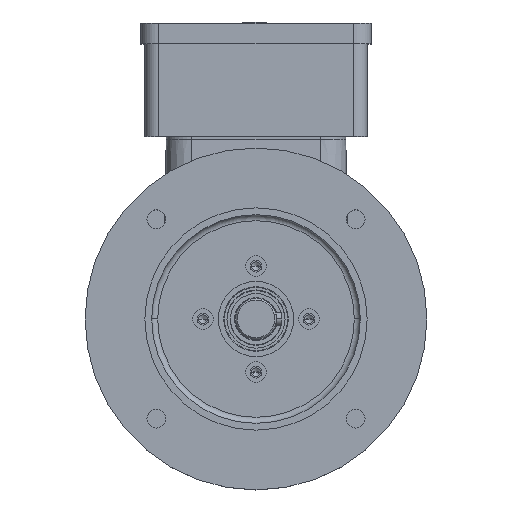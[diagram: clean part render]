
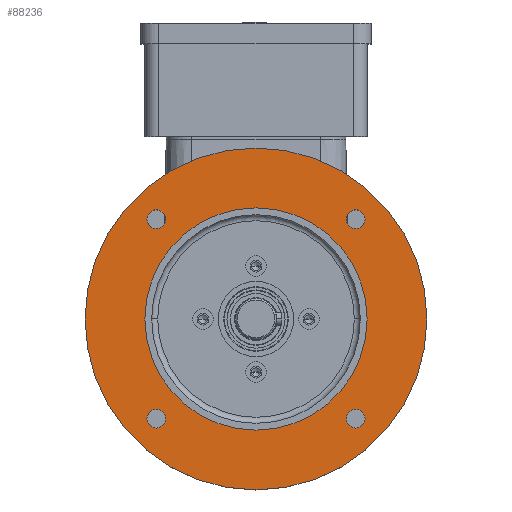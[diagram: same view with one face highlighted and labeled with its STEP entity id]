
A CAD part, top view. The second image highlights one B-rep face of the part: STEP entity #88236.
In plain terms, the highlighted planar face has unit normal (0, 0, 1).
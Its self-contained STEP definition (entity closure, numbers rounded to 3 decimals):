
#734 = CARTESIAN_POINT ( 'NONE',  ( -52.836, 58.336, 136.5 ) ) ;
#3097 = EDGE_LOOP ( 'NONE', ( #20086, #78267 ) ) ;
#3687 = ORIENTED_EDGE ( 'NONE', *, *, #75343, .F. ) ;
#7861 = CIRCLE ( 'NONE', #97593, 5.5 ) ;
#8470 = CIRCLE ( 'NONE', #15726, 65. ) ;
#11179 = VERTEX_POINT ( 'NONE', #71261 ) ;
#11537 = AXIS2_PLACEMENT_3D ( 'NONE', #52733, #61545, #22193 ) ;
#12981 = DIRECTION ( 'NONE',  ( 1., 0., 0. ) ) ;
#13802 = DIRECTION ( 'NONE',  ( 0., 0., 1. ) ) ;
#14098 = DIRECTION ( 'NONE',  ( 1., 0., 0. ) ) ;
#15726 = AXIS2_PLACEMENT_3D ( 'NONE', #37594, #129290, #48216 ) ;
#18408 = CARTESIAN_POINT ( 'NONE',  ( -100., 0., 136.5 ) ) ;
#19991 = CIRCLE ( 'NONE', #100481, 5.5 ) ;
#20086 = ORIENTED_EDGE ( 'NONE', *, *, #30128, .F. ) ;
#21428 = CARTESIAN_POINT ( 'NONE',  ( 63.836, 58.336, 136.5 ) ) ;
#21999 = FACE_BOUND ( 'NONE', #125487, .T. ) ;
#22193 = DIRECTION ( 'NONE',  ( 1., 0., 0. ) ) ;
#22886 = DIRECTION ( 'NONE',  ( 1., 0., 0. ) ) ;
#24916 = ORIENTED_EDGE ( 'NONE', *, *, #63097, .F. ) ;
#24945 = ORIENTED_EDGE ( 'NONE', *, *, #33478, .F. ) ;
#25346 = EDGE_CURVE ( 'NONE', #106635, #31333, #84701, .T. ) ;
#30128 = EDGE_CURVE ( 'NONE', #63196, #40210, #89136, .T. ) ;
#31333 = VERTEX_POINT ( 'NONE', #34458 ) ;
#33235 = DIRECTION ( 'NONE',  ( 0., 0., 1. ) ) ;
#33478 = EDGE_CURVE ( 'NONE', #11179, #40755, #38510, .T. ) ;
#34458 = CARTESIAN_POINT ( 'NONE',  ( -52.836, -58.336, 136.5 ) ) ;
#35909 = CIRCLE ( 'NONE', #52246, 5.5 ) ;
#37359 = CARTESIAN_POINT ( 'NONE',  ( 0., 100., 136.5 ) ) ;
#37594 = CARTESIAN_POINT ( 'NONE',  ( 0., 0., 136.5 ) ) ;
#38357 = DIRECTION ( 'NONE',  ( 0., 0., 1. ) ) ;
#38510 = CIRCLE ( 'NONE', #50995, 65. ) ;
#39410 = FACE_BOUND ( 'NONE', #85826, .T. ) ;
#39505 = ORIENTED_EDGE ( 'NONE', *, *, #75650, .F. ) ;
#39705 = CIRCLE ( 'NONE', #131145, 100. ) ;
#40210 = VERTEX_POINT ( 'NONE', #115125 ) ;
#40755 = VERTEX_POINT ( 'NONE', #87657 ) ;
#42052 = VERTEX_POINT ( 'NONE', #76760 ) ;
#44051 = DIRECTION ( 'NONE',  ( 1., 0., 0. ) ) ;
#44884 = CARTESIAN_POINT ( 'NONE',  ( -58.336, -58.336, 136.5 ) ) ;
#46720 = EDGE_CURVE ( 'NONE', #40210, #63196, #7861, .T. ) ;
#48216 = DIRECTION ( 'NONE',  ( 1., 0., 0. ) ) ;
#50995 = AXIS2_PLACEMENT_3D ( 'NONE', #54614, #74075, #44051 ) ;
#51088 = VERTEX_POINT ( 'NONE', #18408 ) ;
#51460 = VERTEX_POINT ( 'NONE', #734 ) ;
#52246 = AXIS2_PLACEMENT_3D ( 'NONE', #130107, #120416, #79954 ) ;
#52733 = CARTESIAN_POINT ( 'NONE',  ( 0., 0., 136.5 ) ) ;
#53631 = DIRECTION ( 'NONE',  ( 1., 0., 0. ) ) ;
#53656 = FACE_BOUND ( 'NONE', #3097, .T. ) ;
#54308 = DIRECTION ( 'NONE',  ( 0., 0., 1. ) ) ;
#54614 = CARTESIAN_POINT ( 'NONE',  ( 0., 0., 136.5 ) ) ;
#55613 = VERTEX_POINT ( 'NONE', #122368 ) ;
#56798 = FACE_BOUND ( 'NONE', #130806, .T. ) ;
#58224 = ORIENTED_EDGE ( 'NONE', *, *, #72231, .T. ) ;
#59037 = CARTESIAN_POINT ( 'NONE',  ( 63.836, -58.336, 136.5 ) ) ;
#60336 = DIRECTION ( 'NONE',  ( 0., 0., -1. ) ) ;
#61545 = DIRECTION ( 'NONE',  ( 0., 0., 1. ) ) ;
#63034 = DIRECTION ( 'NONE',  ( 0., 0., 1. ) ) ;
#63097 = EDGE_CURVE ( 'NONE', #75165, #55613, #87830, .T. ) ;
#63196 = VERTEX_POINT ( 'NONE', #21428 ) ;
#66342 = DIRECTION ( 'NONE',  ( 0., 0., 1. ) ) ;
#68360 = EDGE_LOOP ( 'NONE', ( #71715, #58224 ) ) ;
#69496 = FACE_BOUND ( 'NONE', #82467, .T. ) ;
#71261 = CARTESIAN_POINT ( 'NONE',  ( -65., 0., 136.5 ) ) ;
#71715 = ORIENTED_EDGE ( 'NONE', *, *, #94930, .T. ) ;
#72231 = EDGE_CURVE ( 'NONE', #51088, #125359, #97596, .T. ) ;
#73754 = CARTESIAN_POINT ( 'NONE',  ( -58.336, 58.336, 136.5 ) ) ;
#74075 = DIRECTION ( 'NONE',  ( 0., 0., 1. ) ) ;
#75165 = VERTEX_POINT ( 'NONE', #59037 ) ;
#75343 = EDGE_CURVE ( 'NONE', #31333, #106635, #109460, .T. ) ;
#75650 = EDGE_CURVE ( 'NONE', #51460, #42052, #128244, .T. ) ;
#75925 = AXIS2_PLACEMENT_3D ( 'NONE', #73754, #54308, #22886 ) ;
#76760 = CARTESIAN_POINT ( 'NONE',  ( -63.836, 58.336, 136.5 ) ) ;
#78267 = ORIENTED_EDGE ( 'NONE', *, *, #46720, .F. ) ;
#79954 = DIRECTION ( 'NONE',  ( 1., 0., 0. ) ) ;
#80576 = DIRECTION ( 'NONE',  ( 0., 0., 1. ) ) ;
#82467 = EDGE_LOOP ( 'NONE', ( #99683, #24945 ) ) ;
#83417 = EDGE_CURVE ( 'NONE', #42052, #51460, #19991, .T. ) ;
#84180 = DIRECTION ( 'NONE',  ( 1., 0., 0. ) ) ;
#84701 = CIRCLE ( 'NONE', #112348, 5.5 ) ;
#85826 = EDGE_LOOP ( 'NONE', ( #39505, #88922 ) ) ;
#87657 = CARTESIAN_POINT ( 'NONE',  ( 65., 0., 136.5 ) ) ;
#87830 = CIRCLE ( 'NONE', #118361, 5.5 ) ;
#88236 = ADVANCED_FACE ( 'NONE', ( #56798, #21999, #39410, #53656, #69496, #130881 ), #127348, .F. ) ;
#88922 = ORIENTED_EDGE ( 'NONE', *, *, #83417, .F. ) ;
#89136 = CIRCLE ( 'NONE', #107962, 5.5 ) ;
#89686 = ORIENTED_EDGE ( 'NONE', *, *, #96613, .F. ) ;
#92001 = CARTESIAN_POINT ( 'NONE',  ( -58.336, 58.336, 136.5 ) ) ;
#92132 = EDGE_CURVE ( 'NONE', #40755, #11179, #8470, .T. ) ;
#92687 = AXIS2_PLACEMENT_3D ( 'NONE', #44884, #13802, #84180 ) ;
#93778 = CARTESIAN_POINT ( 'NONE',  ( 0., 0., 136.5 ) ) ;
#94930 = EDGE_CURVE ( 'NONE', #125359, #51088, #39705, .T. ) ;
#96613 = EDGE_CURVE ( 'NONE', #55613, #75165, #35909, .T. ) ;
#96729 = CARTESIAN_POINT ( 'NONE',  ( 58.336, 58.336, 136.5 ) ) ;
#97593 = AXIS2_PLACEMENT_3D ( 'NONE', #113192, #63034, #12981 ) ;
#97596 = CIRCLE ( 'NONE', #11537, 100. ) ;
#98748 = CARTESIAN_POINT ( 'NONE',  ( 58.336, -58.336, 136.5 ) ) ;
#99683 = ORIENTED_EDGE ( 'NONE', *, *, #92132, .F. ) ;
#100316 = ORIENTED_EDGE ( 'NONE', *, *, #25346, .F. ) ;
#100481 = AXIS2_PLACEMENT_3D ( 'NONE', #92001, #80576, #121462 ) ;
#106635 = VERTEX_POINT ( 'NONE', #117373 ) ;
#107962 = AXIS2_PLACEMENT_3D ( 'NONE', #96729, #66342, #14098 ) ;
#108512 = DIRECTION ( 'NONE',  ( 0., 0., 1. ) ) ;
#109460 = CIRCLE ( 'NONE', #92687, 5.5 ) ;
#112201 = AXIS2_PLACEMENT_3D ( 'NONE', #37359, #60336, #130847 ) ;
#112348 = AXIS2_PLACEMENT_3D ( 'NONE', #127971, #108512, #117827 ) ;
#113192 = CARTESIAN_POINT ( 'NONE',  ( 58.336, 58.336, 136.5 ) ) ;
#115125 = CARTESIAN_POINT ( 'NONE',  ( 52.836, 58.336, 136.5 ) ) ;
#117373 = CARTESIAN_POINT ( 'NONE',  ( -63.836, -58.336, 136.5 ) ) ;
#117827 = DIRECTION ( 'NONE',  ( 1., 0., 0. ) ) ;
#118361 = AXIS2_PLACEMENT_3D ( 'NONE', #98748, #38357, #130039 ) ;
#120416 = DIRECTION ( 'NONE',  ( 0., 0., 1. ) ) ;
#121462 = DIRECTION ( 'NONE',  ( 1., 0., 0. ) ) ;
#122368 = CARTESIAN_POINT ( 'NONE',  ( 52.836, -58.336, 136.5 ) ) ;
#125359 = VERTEX_POINT ( 'NONE', #127420 ) ;
#125487 = EDGE_LOOP ( 'NONE', ( #3687, #100316 ) ) ;
#127348 = PLANE ( 'NONE',  #112201 ) ;
#127420 = CARTESIAN_POINT ( 'NONE',  ( 100., 0., 136.5 ) ) ;
#127971 = CARTESIAN_POINT ( 'NONE',  ( -58.336, -58.336, 136.5 ) ) ;
#128244 = CIRCLE ( 'NONE', #75925, 5.5 ) ;
#129290 = DIRECTION ( 'NONE',  ( 0., 0., 1. ) ) ;
#130039 = DIRECTION ( 'NONE',  ( 1., 0., 0. ) ) ;
#130107 = CARTESIAN_POINT ( 'NONE',  ( 58.336, -58.336, 136.5 ) ) ;
#130806 = EDGE_LOOP ( 'NONE', ( #24916, #89686 ) ) ;
#130847 = DIRECTION ( 'NONE',  ( -1., 0., 0. ) ) ;
#130881 = FACE_OUTER_BOUND ( 'NONE', #68360, .T. ) ;
#131145 = AXIS2_PLACEMENT_3D ( 'NONE', #93778, #33235, #53631 ) ;
